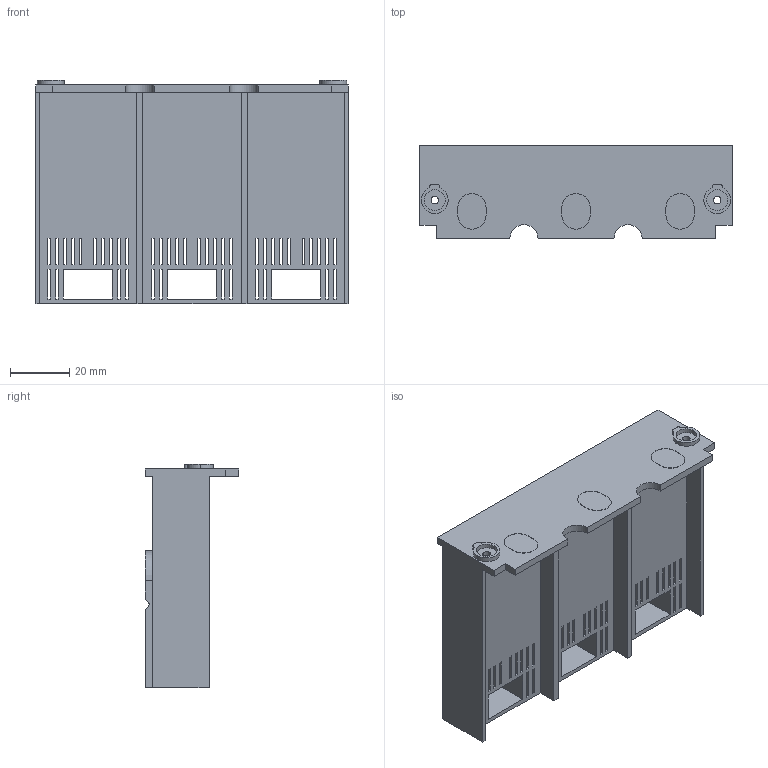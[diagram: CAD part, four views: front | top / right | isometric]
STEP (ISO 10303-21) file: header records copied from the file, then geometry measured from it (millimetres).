
FILE_DESCRIPTION (( 'STEP AP214' ), '1' );
FILE_NAME ('Êðûøêà êëåììíàÿ OptiMat D100, D160, D250.STEP', '2023-04-03T03:21:54', ( '' ), ( '' ), 'SwSTEP 2.0', 'SolidWorks 2018', '' );
FILE_SCHEMA (( 'AUTOMOTIVE_DESIGN' ));
Length unit declared in the file: millimetre
Products named in the file (1): Êðûøêà êëåììíàÿ OptiMat D100, D160, D250
Bounding box: 105 x 31.5 x 75 mm (x, y, z)
Volume: 100861.1 mm3; surface area: 42362.6 mm2
Topology: 1 solids, 1 shells, 295 faces, 858 edges, 572 vertices
Faces by surface type: plane 260, cylinder 35
Entity records: 9824 total; most frequent: CARTESIAN_POINT 1726, ORIENTED_EDGE 1716, DIRECTION 1520, EDGE_CURVE 858, LINE 788, VECTOR 788, VERTEX_POINT 572, EDGE_LOOP 396
